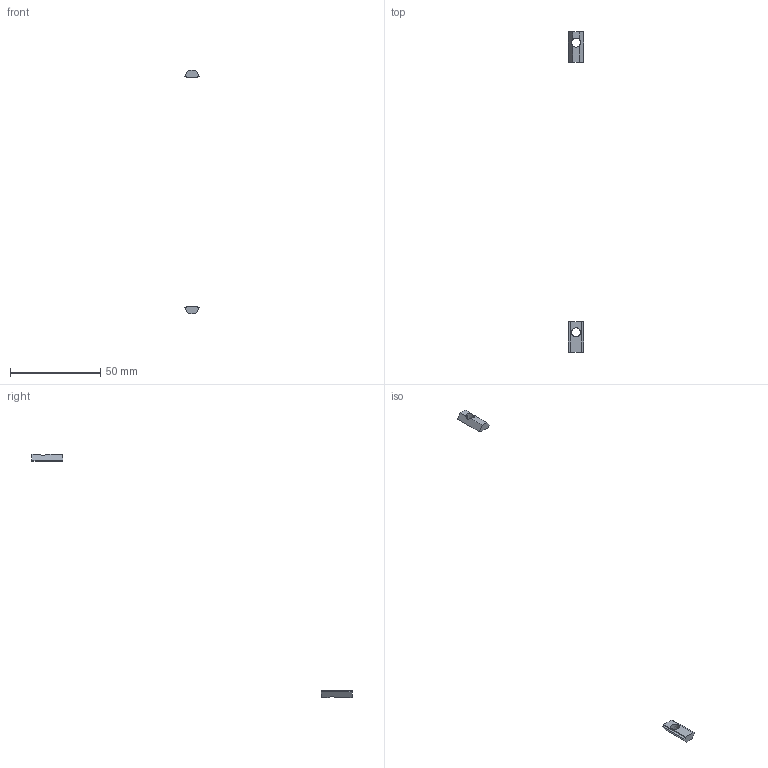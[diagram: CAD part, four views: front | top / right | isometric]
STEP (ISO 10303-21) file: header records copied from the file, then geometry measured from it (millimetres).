
FILE_DESCRIPTION(/* description */ (''),/* implementation_level */ '2;1');
FILE_NAME(/* name */ '6.y-drive#6.17#HNTPZ5-5',/* time_stamp */ '2014-12-01T20:17:21+01:00',/* author */ (''),/* organization */ (''),/* preprocessor_version */ 'ST-DEVELOPER v14',/* originating_system */ '',/* authorisation */ '');
FILE_SCHEMA (('AUTOMOTIVE_DESIGN'));
Length unit declared in the file: millimetre
Products named in the file (2): Document; nut tslot, post, M5
Assembly tree (1 placements, depth 2):
  Document
    nut tslot, post, M5
Bounding box: 8.3 x 177 x 134.4 mm (x, y, z)
Volume: 630 mm3; surface area: 839 mm2
Topology: 2 solids, 2 shells, 26 faces, 72 edges, 48 vertices
Faces by surface type: plane 22, bspline 4
Entity records: 1953 total; most frequent: CARTESIAN_POINT 916, B_SPLINE_CURVE_WITH_KNOTS 200, ORIENTED_EDGE 144, PCURVE 144, DEFINITIONAL_REPRESENTATION 144, SURFACE_CURVE 72, EDGE_CURVE 72, VERTEX_POINT 48
